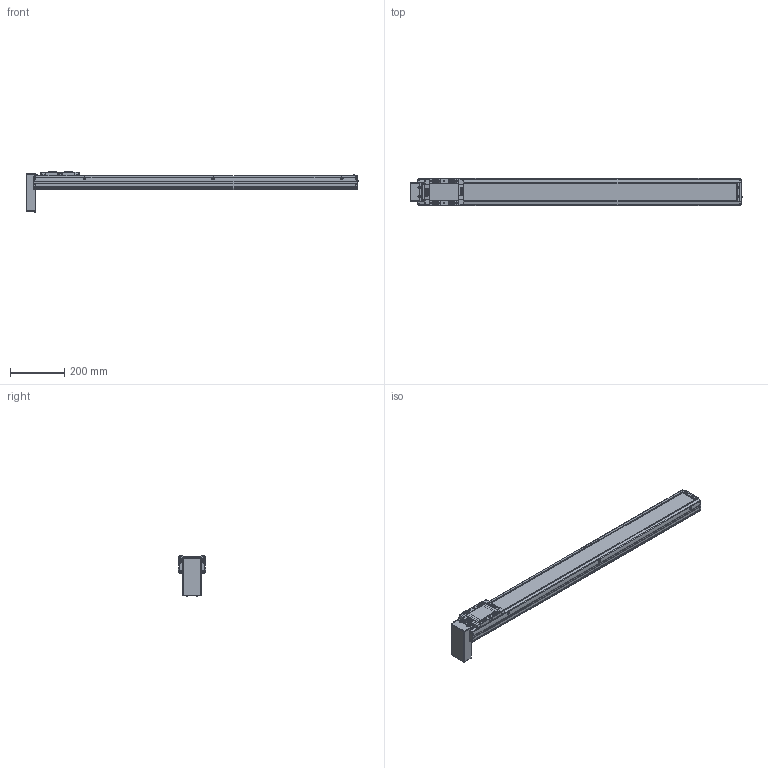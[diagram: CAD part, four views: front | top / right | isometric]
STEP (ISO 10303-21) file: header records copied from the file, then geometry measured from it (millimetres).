
FILE_DESCRIPTION(('STEP AP214'),'1');
FILE_NAME('Z:/Web/3D/SAN100/SAN100 양산용 (STEP)/SAN100ㅁㅁ-1000PB.stp','2013-04-30T05:22:25',(' '),(' '),'Spatial InterOp 3D',' ',' ');
FILE_SCHEMA(('automotive_design'));
Length unit declared in the file: millimetre
Products named in the file (39): BTCV-SAN100; M3.0 x 6.0; 스크루 : Round - M4.0 x 10.0; FRCV-SAN100; SUS COVER; SFX-SAN100; RRCV-SAN100; 스크루 : Round - M3.0 x 6.0; FRBL-SAN100; SLBL-SAN100; SLCV-SAN100; 스크루 : Countersunk - M3.0 x 6.0; BASE; 스크루 : Round - M5.0 x 6.0
Bounding box: 1226.5 x 100 x 148.36 mm (x, y, z)
Volume: 3473656.2 mm3; surface area: 793124 mm2
Topology: 39 solids, 44 shells, 2184 faces, 5676 edges, 3643 vertices
Faces by surface type: plane 1047, cylinder 825, cone 214, sphere 56, torus 30, bspline 12
Entity records: 85924 total; most frequent: CARTESIAN_POINT 12916, DIRECTION 12053, ORIENTED_EDGE 11140, EDGE_CURVE 5570, AXIS2_PLACEMENT_3D 4393, VERTEX_POINT 3643, LINE 3267, VECTOR 3267
